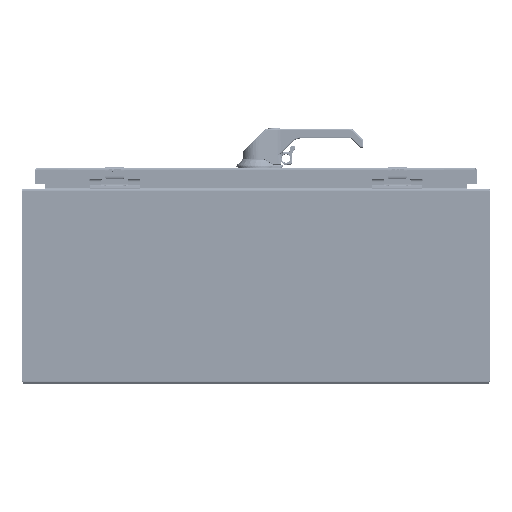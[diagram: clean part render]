
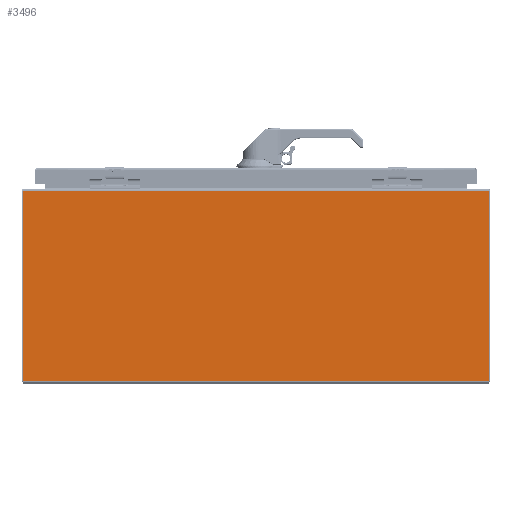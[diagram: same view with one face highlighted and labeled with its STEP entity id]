
A CAD part, left-side view. The second image highlights one B-rep face of the part: STEP entity #3496.
In plain terms, the highlighted planar face has unit normal (-1, 0, 0).
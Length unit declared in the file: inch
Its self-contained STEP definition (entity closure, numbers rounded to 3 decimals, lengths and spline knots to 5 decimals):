
#769=DIRECTION('',(0.,1.,0.));
#770=VECTOR('',#769,23.85);
#771=CARTESIAN_POINT('',(-24.,-11.925,-4.883));
#772=LINE('',#771,#770);
#938=DIRECTION('',(0.,0.,-1.));
#939=VECTOR('',#938,9.766);
#940=CARTESIAN_POINT('',(-24.,-11.925,4.883));
#941=LINE('',#940,#939);
#959=DIRECTION('',(0.,0.,-1.));
#960=VECTOR('',#959,9.766);
#961=CARTESIAN_POINT('',(-24.,11.925,4.883));
#962=LINE('',#961,#960);
#987=DIRECTION('',(0.,1.,0.));
#988=VECTOR('',#987,23.85);
#989=CARTESIAN_POINT('',(-24.,-11.925,4.883));
#990=LINE('',#989,#988);
#2302=CARTESIAN_POINT('',(-24.,-11.925,4.883));
#2303=CARTESIAN_POINT('',(-24.,-11.925,-4.883));
#2304=VERTEX_POINT('',#2302);
#2305=VERTEX_POINT('',#2303);
#2314=CARTESIAN_POINT('',(-24.,11.925,4.883));
#2315=CARTESIAN_POINT('',(-24.,11.925,-4.883));
#2316=VERTEX_POINT('',#2314);
#2317=VERTEX_POINT('',#2315);
#3483=CARTESIAN_POINT('',(-24.,-11.925,5.));
#3484=DIRECTION('',(-1.,0.,0.));
#3485=DIRECTION('',(0.,0.,-1.));
#3486=AXIS2_PLACEMENT_3D('',#3483,#3484,#3485);
#3487=PLANE('',#3486);
#3488=ORIENTED_EDGE('',*,*,#3474,.T.);
#3489=ORIENTED_EDGE('',*,*,#3357,.T.);
#3491=ORIENTED_EDGE('',*,*,#3490,.F.);
#3493=ORIENTED_EDGE('',*,*,#3492,.F.);
#3494=EDGE_LOOP('',(#3488,#3489,#3491,#3493));
#3495=FACE_OUTER_BOUND('',#3494,.F.);
#3357=EDGE_CURVE('',#2305,#2317,#772,.T.);
#3474=EDGE_CURVE('',#2304,#2305,#941,.T.);
#3490=EDGE_CURVE('',#2316,#2317,#962,.T.);
#3492=EDGE_CURVE('',#2304,#2316,#990,.T.);
#3496=ADVANCED_FACE('',(#3495),#3487,.T.);
